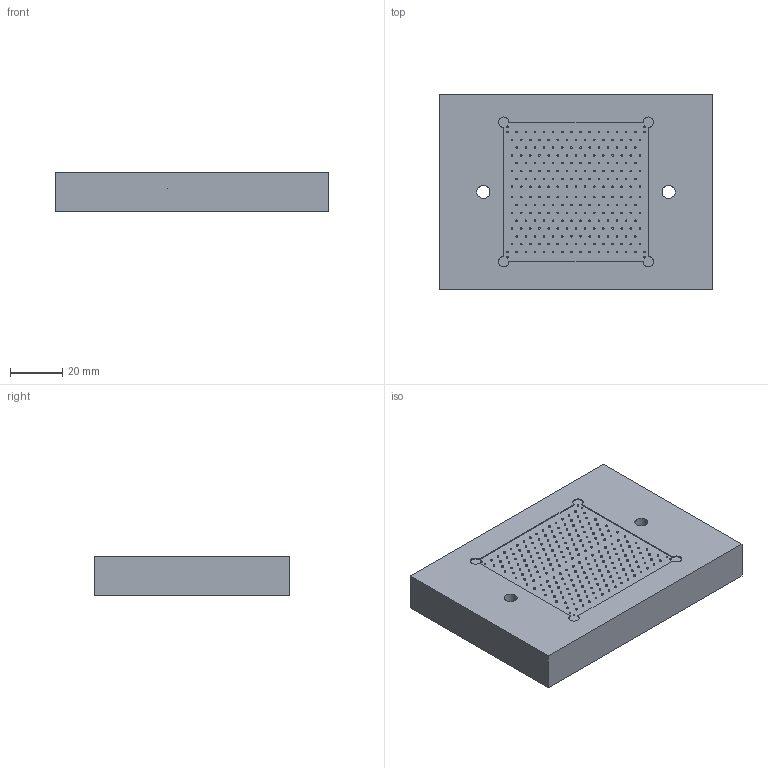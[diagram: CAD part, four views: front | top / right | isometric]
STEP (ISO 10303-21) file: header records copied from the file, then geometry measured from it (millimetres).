
FILE_DESCRIPTION(/* description */ ('Unknown','CAx-IF Rec.Pracs.---Representation and Presentation of Product Manufacturing Information (PMI)---4.0---2014-10-13','CAx-IF Rec.Pracs.---3D Tessellated Geometry---0.4---2014-09-14','2;1'),/* implementation_level */ '2;1');
FILE_NAME(/* name */ 'flowS3-0F-TIM_V02',/* time_stamp */ '2026-01-13T15:10:47+01:00',/* author */ ('Unknown'),/* organization */ ('Unknown'),/* preprocessor_version */ 'ST-DEVELOPER v20',/* originating_system */ 'Solid Edge',/* authorisation */ 'Unknown');
FILE_SCHEMA (('AP242_MANAGED_MODEL_BASED_3D_ENGINEERING_MIM_LF { 1 0 10303 442 1 1 4 }'));
Length unit declared in the file: millimetre
Products named in the file (1): flowS3-0F-TIM_V02
Bounding box: 105 x 75 x 15 mm (x, y, z)
Volume: 116146.5 mm3; surface area: 22081.3 mm2
Topology: 1 solids, 1 shells, 552 faces, 906 edges, 604 vertices
Faces by surface type: plane 286, cylinder 250, bspline 14, cone 2
Full cylindrical faces by diameter (mm): 0.6 x240, 3.242 x4, 5 x2
Entity records: 12658 total; most frequent: CARTESIAN_POINT 2849, DIRECTION 2202, ORIENTED_EDGE 1300, FACE_BOUND 1056, EDGE_LOOP 1054, AXIS2_PLACEMENT_3D 1039, EDGE_CURVE 650, VERTEX_POINT 600
